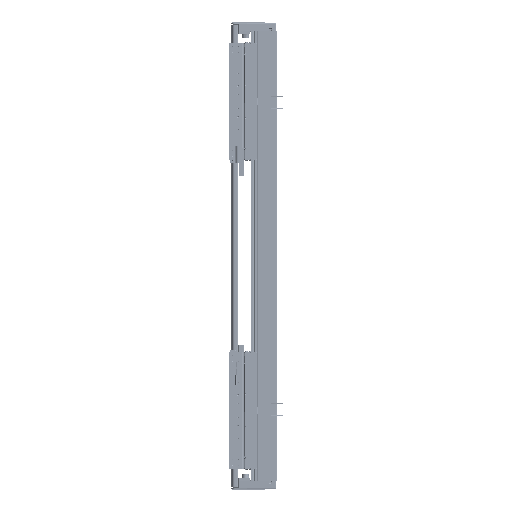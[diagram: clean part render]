
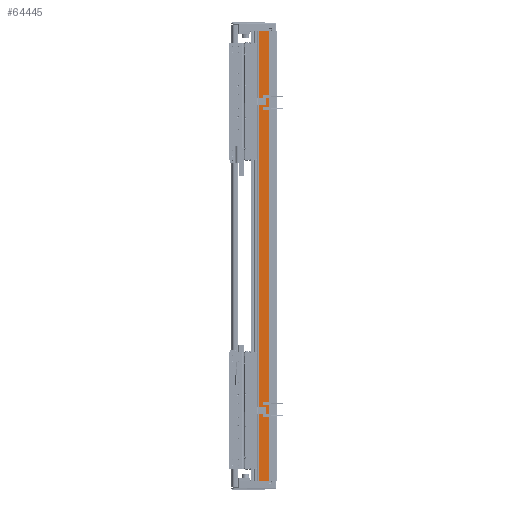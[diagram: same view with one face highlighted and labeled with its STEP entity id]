
A CAD part, left-side view. The second image highlights one B-rep face of the part: STEP entity #64445.
In plain terms, the highlighted planar face has unit normal (-1, 0, 0).
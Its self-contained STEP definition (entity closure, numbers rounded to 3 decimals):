
#842 = PLANE ( 'NONE',  #116557 ) ;
#5011 = CARTESIAN_POINT ( 'NONE',  ( -97.5, 14.45, 480. ) ) ;
#10582 = CARTESIAN_POINT ( 'NONE',  ( -97.5, 36.95, 480. ) ) ;
#15034 = CARTESIAN_POINT ( 'NONE',  ( -97.5, 14.45, 480. ) ) ;
#21455 = CARTESIAN_POINT ( 'NONE',  ( -97.5, 36.95, -480. ) ) ;
#36491 = DIRECTION ( 'NONE',  ( 0., 0., -1. ) ) ;
#37325 = DIRECTION ( 'NONE',  ( 0., -1., 0. ) ) ;
#50467 = CARTESIAN_POINT ( 'NONE',  ( -97.5, 36.95, 480. ) ) ;
#51263 = VECTOR ( 'NONE', #36491, 1000. ) ;
#53212 = ORIENTED_EDGE ( 'NONE', *, *, #143851, .T. ) ;
#56606 = ORIENTED_EDGE ( 'NONE', *, *, #141115, .T. ) ;
#57972 = DIRECTION ( 'NONE',  ( 0., 1., 0. ) ) ;
#59032 = VERTEX_POINT ( 'NONE', #50467 ) ;
#64445 = ADVANCED_FACE ( 'NONE', ( #140082 ), #842, .F. ) ;
#66461 = VERTEX_POINT ( 'NONE', #5011 ) ;
#68996 = CARTESIAN_POINT ( 'NONE',  ( -97.5, 36.95, -480. ) ) ;
#70922 = ORIENTED_EDGE ( 'NONE', *, *, #74560, .F. ) ;
#70988 = VECTOR ( 'NONE', #37325, 1000. ) ;
#74560 = EDGE_CURVE ( 'NONE', #66461, #146485, #142101, .T. ) ;
#82090 = VECTOR ( 'NONE', #86547, 1000. ) ;
#82275 = DIRECTION ( 'NONE',  ( 1., 0., 0. ) ) ;
#86547 = DIRECTION ( 'NONE',  ( 0., 0., -1. ) ) ;
#105774 = LINE ( 'NONE', #106528, #70988 ) ;
#105946 = EDGE_LOOP ( 'NONE', ( #56606, #70922, #114569, #53212 ) ) ;
#106528 = CARTESIAN_POINT ( 'NONE',  ( -97.5, 36.95, 480. ) ) ;
#114569 = ORIENTED_EDGE ( 'NONE', *, *, #147165, .F. ) ;
#116557 = AXIS2_PLACEMENT_3D ( 'NONE', #141566, #82275, #57972 ) ;
#123924 = CARTESIAN_POINT ( 'NONE',  ( -97.5, 14.45, -480. ) ) ;
#124941 = LINE ( 'NONE', #21455, #133144 ) ;
#125687 = DIRECTION ( 'NONE',  ( 0., -1., 0. ) ) ;
#128595 = VERTEX_POINT ( 'NONE', #68996 ) ;
#133144 = VECTOR ( 'NONE', #125687, 1000. ) ;
#140082 = FACE_OUTER_BOUND ( 'NONE', #105946, .T. ) ;
#140662 = LINE ( 'NONE', #10582, #51263 ) ;
#141115 = EDGE_CURVE ( 'NONE', #128595, #146485, #124941, .T. ) ;
#141566 = CARTESIAN_POINT ( 'NONE',  ( -97.5, 36.95, 480. ) ) ;
#142101 = LINE ( 'NONE', #15034, #82090 ) ;
#143851 = EDGE_CURVE ( 'NONE', #59032, #128595, #140662, .T. ) ;
#146485 = VERTEX_POINT ( 'NONE', #123924 ) ;
#147165 = EDGE_CURVE ( 'NONE', #59032, #66461, #105774, .T. ) ;
